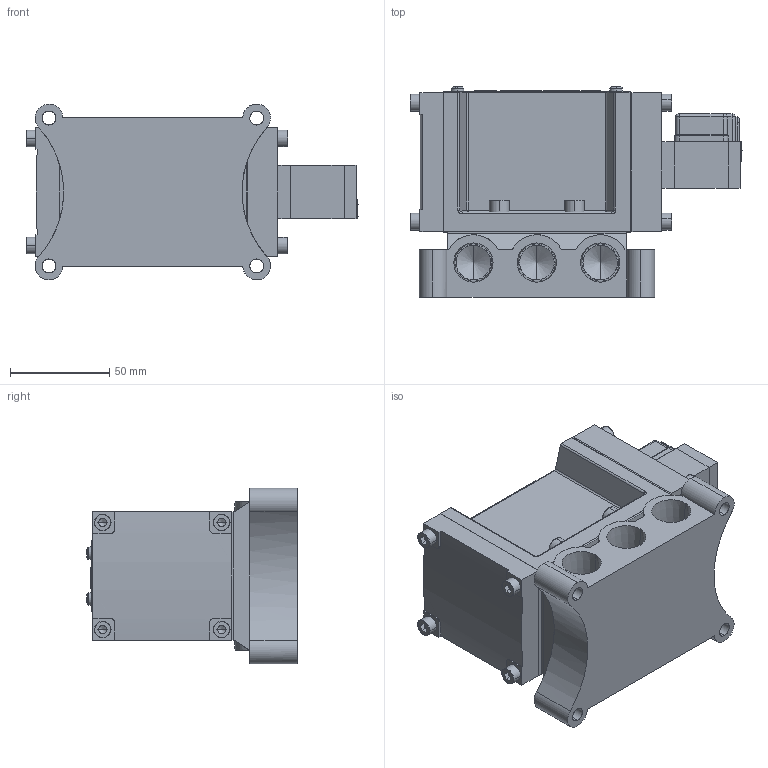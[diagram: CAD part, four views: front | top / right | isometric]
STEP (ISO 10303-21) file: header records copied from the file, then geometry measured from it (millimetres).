
FILE_DESCRIPTION (( 'STEP AP203' ), '1' );
FILE_NAME ('PMS2410#-04-#G#.STEP', '2016-03-09T08:44:05', ( 'Sam Lin' ), ( '' ), 'SwSTEP 2.0', 'SolidWorks 2013', '' );
FILE_SCHEMA (( 'CONFIG_CONTROL_DESIGN' ));
Length unit declared in the file: metre
Products named in the file (18): PMS2410#-04-#G#; PM06-C6-M3_1; PM06-C1_1; PMS2410-8; PM06-C3-M4_1; PMS2410-6(04); ISO 4762 M6 x 20; PM06-G1; PMS2410-5; PMS2410-1; PMS2410-4; PMS2410-3; ISO 4762 M5 x 20; PMS2410-2; PM06-C5_1; PM06-C4_1; PM10-MARK-2410; PMS2410-7
Assembly tree (30 placements, depth 2):
  PMS2410#-04-#G#
    PMS2410-1
    PMS2410-2
    PMS2410-3
    PMS2410-4
    PMS2410-5
    ISO 4762 M5 x 20  x8
    PM06-C3-M4_1  x3
    ISO 4762 M6 x 20  x4
    PM10-MARK-2410
    PMS2410-7
    PMS2410-8
    PMS2410-6(04)
    PM06-C1_1
    PM06-C4_1
    PM06-C6-M3_1  x2
    PM06-C5_1
    PM06-G1
Bounding box: 167.5 x 106.35 x 88.61 mm (x, y, z)
Volume: 676152.2 mm3; surface area: 151734.1 mm2
Topology: 36 solids, 36 shells, 914 faces, 2184 edges, 1346 vertices
Faces by surface type: plane 472, cylinder 219, cone 113, bspline 106, torus 4
Entity records: 21377 total; most frequent: CARTESIAN_POINT 6645, ORIENTED_EDGE 2588, DIRECTION 2533, EDGE_CURVE 1294, AXIS2_PLACEMENT_3D 907, VERTEX_POINT 829, VECTOR 719, LINE 719
